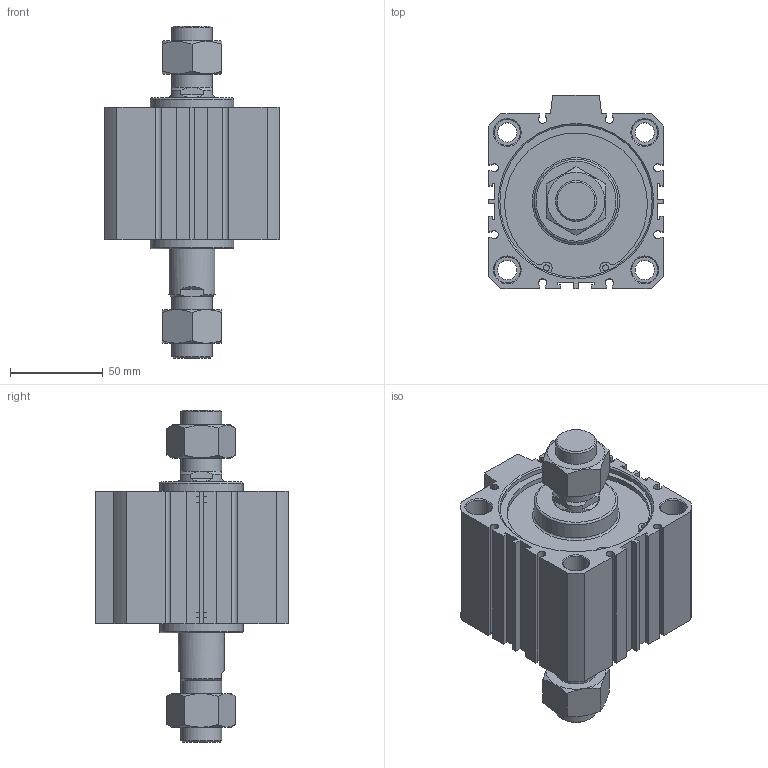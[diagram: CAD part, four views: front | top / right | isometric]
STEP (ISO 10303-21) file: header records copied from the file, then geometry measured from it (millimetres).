
FILE_DESCRIPTION((''),'2;1');
FILE_NAME('I:\3D電子目錄\氣缸\JDD\JDD-BS\JDD80-BS\JDD80x20-BS.stp','2007-02-28T08:39:31',('662F206'),(''),'Autodesk Inventor 10','Autodesk Inventor 10','');
FILE_SCHEMA(('AUTOMOTIVE_DESIGN { 1 0 10303 214 1 1 1 1 }'));
Length unit declared in the file: millimetre
Products named in the file (3): JDD80-BS; R 形環 82
Assembly tree (3 placements, depth 2):
  JDD80-BS
    JDD80-BS
    R 形環 82  x2
Bounding box: 94 x 104 x 178.7 mm (x, y, z)
Volume: 622605.2 mm3; surface area: 90539.6 mm2
Topology: 3 solids, 3 shells, 226 faces, 548 edges, 354 vertices
Faces by surface type: plane 130, cylinder 56, cone 36, bspline 2, torus 2
Full cylindrical faces by diameter (mm): 3.1 x4, 3.5 x2, 10.4 x4, 14 x8, 22 x4, 25 x2, 45 x2, 82 x4, 85.5 x2
Entity records: 6033 total; most frequent: CARTESIAN_POINT 1188, DIRECTION 994, ORIENTED_EDGE 916, EDGE_CURVE 458, AXIS2_PLACEMENT_3D 366, VERTEX_POINT 326, EDGE_LOOP 304, VECTOR 262
